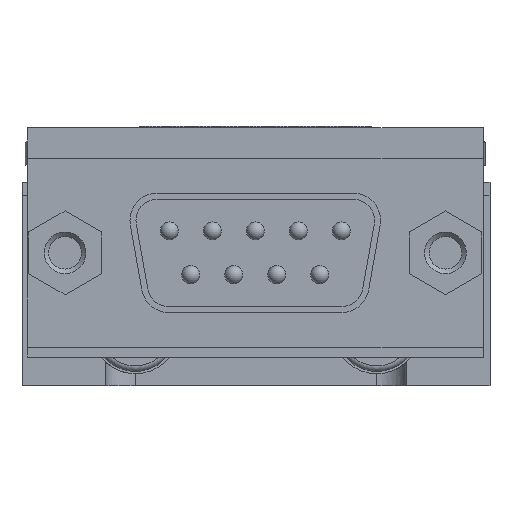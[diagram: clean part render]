
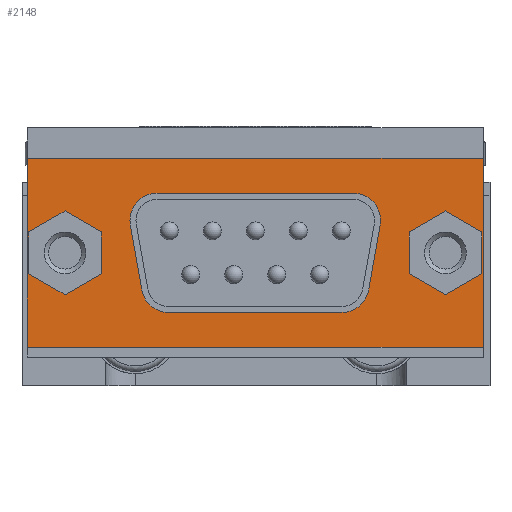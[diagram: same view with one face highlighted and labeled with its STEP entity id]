
A CAD part, front view. The second image highlights one B-rep face of the part: STEP entity #2148.
In plain terms, the highlighted planar face has unit normal (0, -1, 0).
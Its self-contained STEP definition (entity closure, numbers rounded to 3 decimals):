
#909=LINE('',#15048,#1549);
#912=LINE('',#15054,#1552);
#914=LINE('',#15058,#1554);
#916=LINE('',#15062,#1556);
#918=LINE('',#15066,#1558);
#920=LINE('',#15070,#1560);
#923=LINE('',#15078,#1563);
#927=LINE('',#15088,#1567);
#929=LINE('',#15094,#1569);
#932=LINE('',#15102,#1572);
#933=LINE('',#15104,#1573);
#936=LINE('',#15110,#1576);
#938=LINE('',#15114,#1578);
#940=LINE('',#15118,#1580);
#942=LINE('',#15122,#1582);
#944=LINE('',#15126,#1584);
#1004=LINE('',#15275,#1644);
#1007=LINE('',#15281,#1647);
#1008=LINE('',#15283,#1648);
#1009=LINE('',#15285,#1649);
#1549=VECTOR('',#10848,1.);
#1552=VECTOR('',#10853,1.);
#1554=VECTOR('',#10857,1.);
#1556=VECTOR('',#10861,1.);
#1558=VECTOR('',#10865,1.);
#1560=VECTOR('',#10869,1.);
#1563=VECTOR('',#10878,1.);
#1567=VECTOR('',#10888,1.);
#1569=VECTOR('',#10896,1.);
#1572=VECTOR('',#10905,1.);
#1573=VECTOR('',#10908,1.);
#1576=VECTOR('',#10913,1.);
#1578=VECTOR('',#10917,1.);
#1580=VECTOR('',#10921,1.);
#1582=VECTOR('',#10925,1.);
#1584=VECTOR('',#10929,1.);
#1644=VECTOR('',#11075,1.);
#1647=VECTOR('',#11080,1.);
#1648=VECTOR('',#11081,1.);
#1649=VECTOR('',#11082,1.);
#2148=ADVANCED_FACE('',(#2759,#2760,#3156,#2761),#2502,.T.);
#2502=PLANE('',#9048);
#2759=FACE_BOUND('',#3794,.T.);
#2760=FACE_BOUND('',#3795,.T.);
#2761=FACE_BOUND('',#3797,.T.);
#3156=FACE_OUTER_BOUND('',#3796,.T.);
#3794=EDGE_LOOP('',(#5680,#5681,#5682,#5683,#5684,#5685));
#3795=EDGE_LOOP('',(#5686,#5687,#5688,#5689,#5690,#5691,#5692,#5693));
#3796=EDGE_LOOP('',(#5694,#5695,#5696,#5697));
#3797=EDGE_LOOP('',(#5698,#5699,#5700,#5701,#5702,#5703));
#5680=ORIENTED_EDGE('',*,*,#7795,.F.);
#5681=ORIENTED_EDGE('',*,*,#7793,.F.);
#5682=ORIENTED_EDGE('',*,*,#7791,.F.);
#5683=ORIENTED_EDGE('',*,*,#7789,.F.);
#5684=ORIENTED_EDGE('',*,*,#7787,.F.);
#5685=ORIENTED_EDGE('',*,*,#7784,.F.);
#5686=ORIENTED_EDGE('',*,*,#7783,.F.);
#5687=ORIENTED_EDGE('',*,*,#7781,.T.);
#5688=ORIENTED_EDGE('',*,*,#7779,.F.);
#5689=ORIENTED_EDGE('',*,*,#7777,.F.);
#5690=ORIENTED_EDGE('',*,*,#7776,.F.);
#5691=ORIENTED_EDGE('',*,*,#7773,.T.);
#5692=ORIENTED_EDGE('',*,*,#7771,.F.);
#5693=ORIENTED_EDGE('',*,*,#7768,.T.);
#5694=ORIENTED_EDGE('',*,*,#7869,.T.);
#5695=ORIENTED_EDGE('',*,*,#7872,.T.);
#5696=ORIENTED_EDGE('',*,*,#7873,.T.);
#5697=ORIENTED_EDGE('',*,*,#7874,.T.);
#5698=ORIENTED_EDGE('',*,*,#7767,.T.);
#5699=ORIENTED_EDGE('',*,*,#7765,.T.);
#5700=ORIENTED_EDGE('',*,*,#7763,.T.);
#5701=ORIENTED_EDGE('',*,*,#7761,.T.);
#5702=ORIENTED_EDGE('',*,*,#7759,.T.);
#5703=ORIENTED_EDGE('',*,*,#7756,.T.);
#6765=VERTEX_POINT('',#15049);
#6766=VERTEX_POINT('',#15050);
#6767=VERTEX_POINT('',#15055);
#6768=VERTEX_POINT('',#15059);
#6769=VERTEX_POINT('',#15063);
#6770=VERTEX_POINT('',#15067);
#6771=VERTEX_POINT('',#15073);
#6772=VERTEX_POINT('',#15074);
#6773=VERTEX_POINT('',#15079);
#6774=VERTEX_POINT('',#15083);
#6775=VERTEX_POINT('',#15087);
#6776=VERTEX_POINT('',#15091);
#6777=VERTEX_POINT('',#15095);
#6778=VERTEX_POINT('',#15099);
#6779=VERTEX_POINT('',#15105);
#6780=VERTEX_POINT('',#15106);
#6781=VERTEX_POINT('',#15111);
#6782=VERTEX_POINT('',#15115);
#6783=VERTEX_POINT('',#15119);
#6784=VERTEX_POINT('',#15123);
#6831=VERTEX_POINT('',#15276);
#6832=VERTEX_POINT('',#15277);
#6833=VERTEX_POINT('',#15282);
#6834=VERTEX_POINT('',#15284);
#7756=EDGE_CURVE('',#6765,#6766,#909,.T.);
#7759=EDGE_CURVE('',#6767,#6765,#912,.T.);
#7761=EDGE_CURVE('',#6768,#6767,#914,.T.);
#7763=EDGE_CURVE('',#6769,#6768,#916,.T.);
#7765=EDGE_CURVE('',#6770,#6769,#918,.T.);
#7767=EDGE_CURVE('',#6766,#6770,#920,.T.);
#7768=EDGE_CURVE('',#6771,#6772,#8312,.T.);
#7771=EDGE_CURVE('',#6771,#6773,#923,.T.);
#7773=EDGE_CURVE('',#6774,#6773,#8313,.T.);
#7776=EDGE_CURVE('',#6774,#6775,#927,.T.);
#7777=EDGE_CURVE('',#6775,#6776,#8314,.T.);
#7779=EDGE_CURVE('',#6776,#6777,#929,.T.);
#7781=EDGE_CURVE('',#6778,#6777,#8315,.T.);
#7783=EDGE_CURVE('',#6778,#6772,#932,.T.);
#7784=EDGE_CURVE('',#6779,#6780,#933,.T.);
#7787=EDGE_CURVE('',#6780,#6781,#936,.T.);
#7789=EDGE_CURVE('',#6781,#6782,#938,.T.);
#7791=EDGE_CURVE('',#6782,#6783,#940,.T.);
#7793=EDGE_CURVE('',#6783,#6784,#942,.T.);
#7795=EDGE_CURVE('',#6784,#6779,#944,.T.);
#7869=EDGE_CURVE('',#6831,#6832,#1004,.T.);
#7872=EDGE_CURVE('',#6832,#6833,#1007,.T.);
#7873=EDGE_CURVE('',#6833,#6834,#1008,.T.);
#7874=EDGE_CURVE('',#6834,#6831,#1009,.T.);
#8312=CIRCLE('',#8987,1.8);
#8313=CIRCLE('',#8990,1.8);
#8314=CIRCLE('',#8993,1.8);
#8315=CIRCLE('',#8996,1.8);
#8987=AXIS2_PLACEMENT_3D('',#15072,#10872,#10873);
#8990=AXIS2_PLACEMENT_3D('',#15082,#10882,#10883);
#8993=AXIS2_PLACEMENT_3D('',#15090,#10891,#10892);
#8996=AXIS2_PLACEMENT_3D('',#15098,#10900,#10901);
#9048=AXIS2_PLACEMENT_3D('',#15286,#11083,#11084);
#10848=DIRECTION('',(0.866,0.,0.5));
#10853=DIRECTION('',(0.,0.,1.));
#10857=DIRECTION('',(-0.866,0.,0.5));
#10861=DIRECTION('',(-0.866,0.,-0.5));
#10865=DIRECTION('',(0.,0.,-1.));
#10869=DIRECTION('',(0.866,0.,-0.5));
#10872=DIRECTION('',(0.,1.,0.));
#10873=DIRECTION('',(0.,0.,-1.));
#10878=DIRECTION('',(1.,0.,0.));
#10882=DIRECTION('',(0.,1.,0.));
#10883=DIRECTION('',(0.,0.,-1.));
#10888=DIRECTION('',(0.174,0.,0.985));
#10891=DIRECTION('',(0.,-1.,0.));
#10892=DIRECTION('',(0.,0.,-1.));
#10896=DIRECTION('',(-1.,0.,0.));
#10900=DIRECTION('',(0.,1.,0.));
#10901=DIRECTION('',(0.,0.,-1.));
#10905=DIRECTION('',(0.174,0.,-0.985));
#10908=DIRECTION('',(0.866,0.,-0.5));
#10913=DIRECTION('',(0.866,0.,0.5));
#10917=DIRECTION('',(0.,0.,1.));
#10921=DIRECTION('',(-0.866,0.,0.5));
#10925=DIRECTION('',(-0.866,0.,-0.5));
#10929=DIRECTION('',(0.,0.,-1.));
#11075=DIRECTION('',(-1.,0.,0.));
#11080=DIRECTION('',(0.,0.,-1.));
#11081=DIRECTION('',(1.,0.,0.));
#11082=DIRECTION('',(0.,0.,1.));
#11083=DIRECTION('',(0.,-1.,0.));
#11084=DIRECTION('',(0.,0.,1.));
#15048=CARTESIAN_POINT('',(-15.05,-12.975,-7.004));
#15049=CARTESIAN_POINT('',(-15.05,-12.975,-7.004));
#15050=CARTESIAN_POINT('',(-12.65,-12.975,-5.619));
#15054=CARTESIAN_POINT('',(-15.05,-12.975,-11.161));
#15055=CARTESIAN_POINT('',(-15.05,-12.975,-9.776));
#15058=CARTESIAN_POINT('',(-12.65,-12.975,-11.161));
#15059=CARTESIAN_POINT('',(-12.65,-12.975,-11.161));
#15062=CARTESIAN_POINT('',(-10.25,-12.975,-9.776));
#15063=CARTESIAN_POINT('',(-10.25,-12.975,-9.776));
#15066=CARTESIAN_POINT('',(-10.25,-12.975,-11.161));
#15067=CARTESIAN_POINT('',(-10.25,-12.975,-7.004));
#15070=CARTESIAN_POINT('',(-12.65,-12.975,-5.619));
#15072=CARTESIAN_POINT('',(-5.792,-12.975,-10.54));
#15073=CARTESIAN_POINT('',(-5.792,-12.975,-12.34));
#15074=CARTESIAN_POINT('',(-7.564,-12.975,-10.853));
#15078=CARTESIAN_POINT('',(-18.47,-12.975,-12.34));
#15079=CARTESIAN_POINT('',(5.692,-12.975,-12.34));
#15082=CARTESIAN_POINT('',(5.692,-12.975,-10.54));
#15083=CARTESIAN_POINT('',(7.464,-12.975,-10.853));
#15087=CARTESIAN_POINT('',(8.223,-12.975,-6.553));
#15088=CARTESIAN_POINT('',(5.821,-12.975,-20.173));
#15090=CARTESIAN_POINT('',(6.45,-12.975,-6.24));
#15091=CARTESIAN_POINT('',(6.45,-12.975,-4.44));
#15094=CARTESIAN_POINT('',(-18.47,-12.975,-4.44));
#15095=CARTESIAN_POINT('',(-6.55,-12.975,-4.44));
#15098=CARTESIAN_POINT('',(-6.55,-12.975,-6.24));
#15099=CARTESIAN_POINT('',(-8.323,-12.975,-6.553));
#15102=CARTESIAN_POINT('',(-7.032,-12.975,-13.873));
#15104=CARTESIAN_POINT('',(10.15,-12.975,-9.776));
#15105=CARTESIAN_POINT('',(10.15,-12.975,-9.776));
#15106=CARTESIAN_POINT('',(12.55,-12.975,-11.161));
#15110=CARTESIAN_POINT('',(12.55,-12.975,-11.161));
#15111=CARTESIAN_POINT('',(14.95,-12.975,-9.776));
#15114=CARTESIAN_POINT('',(14.95,-12.975,-11.161));
#15115=CARTESIAN_POINT('',(14.95,-12.975,-7.004));
#15118=CARTESIAN_POINT('',(14.95,-12.975,-7.004));
#15119=CARTESIAN_POINT('',(12.55,-12.975,-5.619));
#15122=CARTESIAN_POINT('',(12.55,-12.975,-5.619));
#15123=CARTESIAN_POINT('',(10.15,-12.975,-7.004));
#15126=CARTESIAN_POINT('',(10.15,-12.975,-11.161));
#15275=CARTESIAN_POINT('',(15.05,-12.975,-2.14));
#15276=CARTESIAN_POINT('',(15.05,-12.975,-2.14));
#15277=CARTESIAN_POINT('',(-15.15,-12.975,-2.14));
#15281=CARTESIAN_POINT('',(-15.15,-12.975,-2.14));
#15282=CARTESIAN_POINT('',(-15.15,-12.975,-14.64));
#15283=CARTESIAN_POINT('',(-15.15,-12.975,-14.64));
#15284=CARTESIAN_POINT('',(15.05,-12.975,-14.64));
#15285=CARTESIAN_POINT('',(15.05,-12.975,-14.64));
#15286=CARTESIAN_POINT('',(15.05,-12.975,-2.14));
